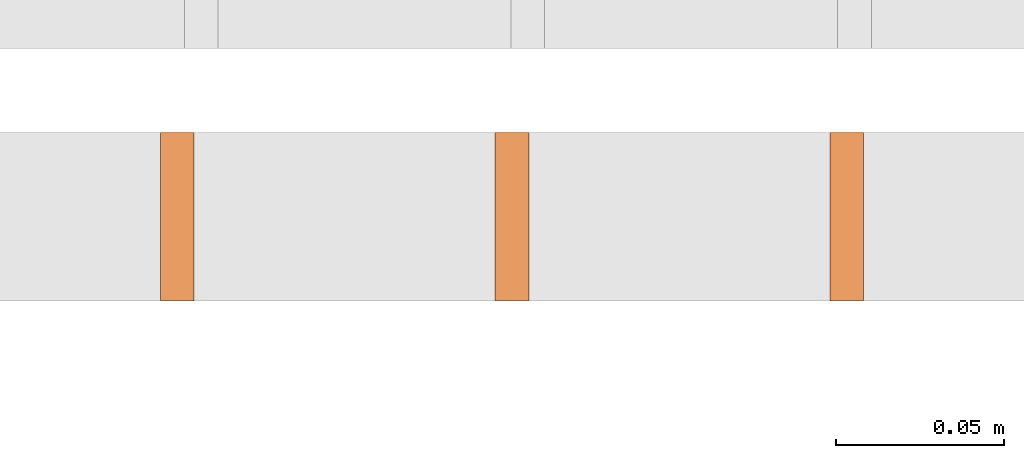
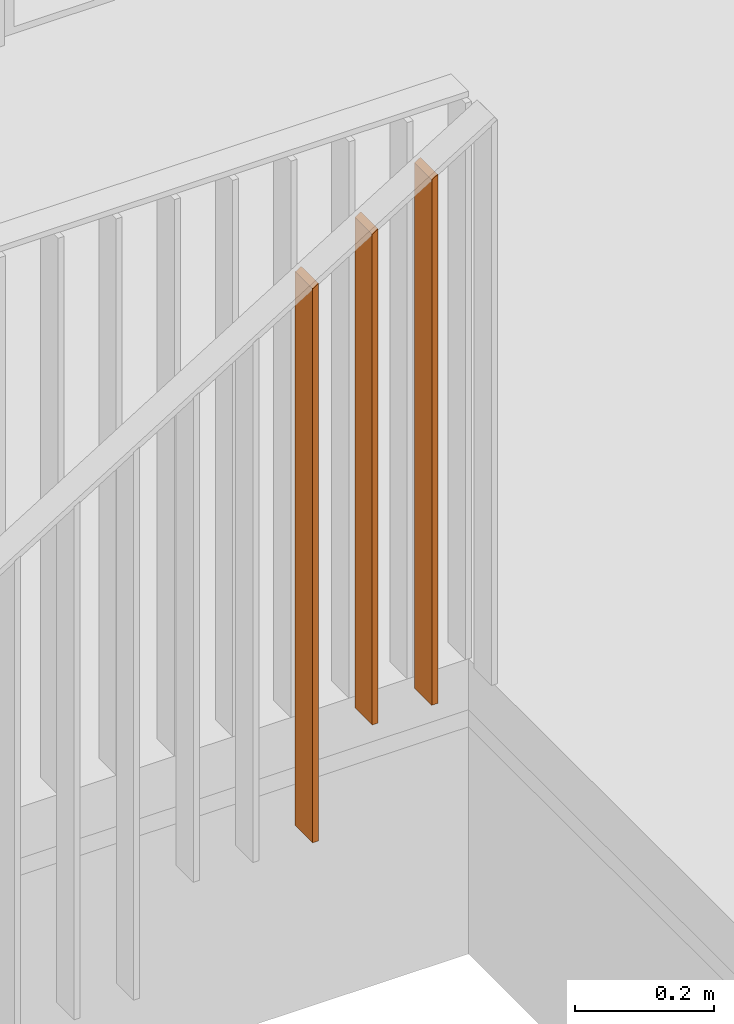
# One storey, part 97 of 100: 3 proxies, 1 element without a shape of its own.
"""IFC2X3 building model written with IfcOpenShell, lengths in millimetres."""

from ifc_helpers import new_model, entity, si_unit, converted_unit, derived_unit, money_unit, direction, frame, origin_with_axes, place, context, subcontext, project, spatial, faceted_brep, material, type_object, element, aggregate, save


model = new_model("IFC2X3")

# Units and contexts
model_context = context("Model", 3, precision=0.01, world=origin_with_axes(), true_north=direction((0.0, 1.0)))
body_context = subcontext(model_context, "Body", "Model", "MODEL_VIEW")
ifc_project = project(units=[si_unit("LENGTHUNIT", "METRE", prefix="MILLI"), si_unit("AREAUNIT", "SQUARE_METRE"), si_unit("VOLUMEUNIT", "CUBIC_METRE"), converted_unit("PLANEANGLEUNIT", "DEGREE", entity("IfcPlaneAngleMeasure", 0.0174532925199), si_unit("PLANEANGLEUNIT", "RADIAN"), dimensions=[0, 0, 0, 0, 0, 0, 0]), si_unit("SOLIDANGLEUNIT", "STERADIAN"), money_unit("EUR"), converted_unit("TIMEUNIT", "Year", entity("IfcTimeMeasure", 31556926.0), si_unit("TIMEUNIT", "SECOND"), dimensions=[0, 0, 1, 0, 0, 0, 0]), si_unit("MASSUNIT", "GRAM", prefix="KILO"), si_unit("THERMODYNAMICTEMPERATUREUNIT", "DEGREE_CELSIUS"), si_unit("LUMINOUSINTENSITYUNIT", "LUMEN"), si_unit("ENERGYUNIT", "JOULE", prefix="MEGA"), derived_unit("THERMALCONDUCTANCEUNIT", [(si_unit("POWERUNIT", "WATT"), 1), (si_unit("LENGTHUNIT", "METRE"), -1), (si_unit("THERMODYNAMICTEMPERATUREUNIT", "KELVIN"), -1)]), derived_unit("SPECIFICHEATCAPACITYUNIT", [(si_unit("ENERGYUNIT", "JOULE"), 1), (si_unit("MASSUNIT", "GRAM", prefix="KILO"), -1), (si_unit("THERMODYNAMICTEMPERATUREUNIT", "KELVIN"), -1)]), derived_unit("MASSDENSITYUNIT", [(si_unit("MASSUNIT", "GRAM", prefix="KILO"), 1), (si_unit("VOLUMEUNIT", "CUBIC_METRE"), -1)])], contexts=[model_context])

# Site, building, storey
site_placement = place(None, origin_with_axes())
site = spatial("IfcSite", under=ifc_project, at=site_placement, Name="Politse- ja Piirivalveameti ning Päästeameti ühishoone", CompositionType="ELEMENT")
building_placement = place(site_placement, origin_with_axes())
building = spatial("IfcBuilding", under=site, at=building_placement, Name="Politse- ja Piirivalveameti ning Päästeameti ühishoone", CompositionType="ELEMENT")
storey_placement = place(building_placement, frame((0.0, 0.0, 3800.0), z_axis=(0.0, 0.0, 1.0), x_axis=(1.0, 0.0, 0.0)))
storey = spatial("IfcBuildingStorey", under=building, at=storey_placement, Name="Teine korrus", CompositionType="ELEMENT", Elevation=3800.0)

# Railing, proxies
railing_type = type_object("IfcRailingType", Name="Railing Type", PredefinedType="NOTDEFINED")
railing_placement = place(storey_placement, frame((18400.0260184, 12785.0198611, -3800.0), z_axis=(0.0, 0.0, 1.0), x_axis=(1.0, 0.0, 0.0)))
railing = element("IfcRailing", 1, at=railing_placement, inside=storey, type_object=railing_type, Name="TREPIPIIRE 7", PredefinedType="NOTDEFINED")
ifc_material = material(Name="Teras - Konstruktsioon")
building_element_proxy_type = type_object("IfcBuildingElementProxyType", Name="IfcBuildingElementProxy", PredefinedType="NOTDEFINED")
proxy_1_placement = place(railing_placement, frame((6501.93548387, -25.0, 3627.27271472), z_axis=(0.0, 0.0, 1.0), x_axis=(1.0, 0.0, 0.0)))
proxy_1 = element("IfcBuildingElementProxy", 2, at=proxy_1_placement, type_object=building_element_proxy_type, material=ifc_material, Name="BALUSTER - 001", context=body_context, shape_type="Brep", body=[
    faceted_brep([(5.0, -25.0, 0.0), (5.0, 25.0, 0.0), (5.0, 25.0, 981.940733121), (5.0, -25.0, 981.940733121), (-5.0, -25.0, 0.0), (-5.0, 25.0, 0.0), (-5.0, 25.0, 975.771901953), (-5.0, -25.0, 975.771901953)], [[[0, 1, 2, 3]], [[0, 4, 5, 1]], [[1, 5, 6, 2]], [[3, 2, 6, 7]], [[4, 0, 3, 7]], [[5, 4, 7, 6]]]),
])
proxy_2_placement = place(railing_placement, frame((6601.29032258, -25.0, 3799.99998745), z_axis=(0.0, 0.0, 1.0), x_axis=(1.0, 0.0, 0.0)))
proxy_2 = element("IfcBuildingElementProxy", 3, at=proxy_2_placement, type_object=building_element_proxy_type, material=ifc_material, Name="BALUSTER - 001", context=body_context, shape_type="Brep", body=[
    faceted_brep([(5.0, -25.0, 0.0), (5.0, 25.0, 0.0), (5.0, 25.0, 870.503782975), (5.0, -25.0, 870.503782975), (-5.0, -25.0, 0.0), (-5.0, 25.0, 0.0), (-5.0, 25.0, 864.334951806), (-5.0, -25.0, 864.334951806)], [[[0, 1, 2, 3]], [[0, 4, 5, 1]], [[1, 5, 6, 2]], [[3, 2, 6, 7]], [[4, 0, 3, 7]], [[5, 4, 7, 6]]]),
])
proxy_3_placement = place(railing_placement, frame((6700.64516129, -25.0, 3799.99998745), z_axis=(0.0, 0.0, 1.0), x_axis=(1.0, 0.0, 0.0)))
proxy_3 = element("IfcBuildingElementProxy", 4, at=proxy_3_placement, type_object=building_element_proxy_type, material=ifc_material, Name="BALUSTER - 001", context=body_context, shape_type="Brep", body=[
    faceted_brep([(5.0, -25.0, 0.0), (5.0, 25.0, 0.0), (5.0, 25.0, 931.794105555), (5.0, -25.0, 931.794105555), (-5.0, -25.0, 0.0), (-5.0, 25.0, 0.0), (-5.0, 25.0, 925.625274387), (-5.0, -25.0, 925.625274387)], [[[0, 1, 2, 3]], [[0, 4, 5, 1]], [[1, 5, 6, 2]], [[3, 2, 6, 7]], [[4, 0, 3, 7]], [[5, 4, 7, 6]]]),
])
aggregate(railing, [proxy_1, proxy_2, proxy_3])

save(model, "model.ifc")
